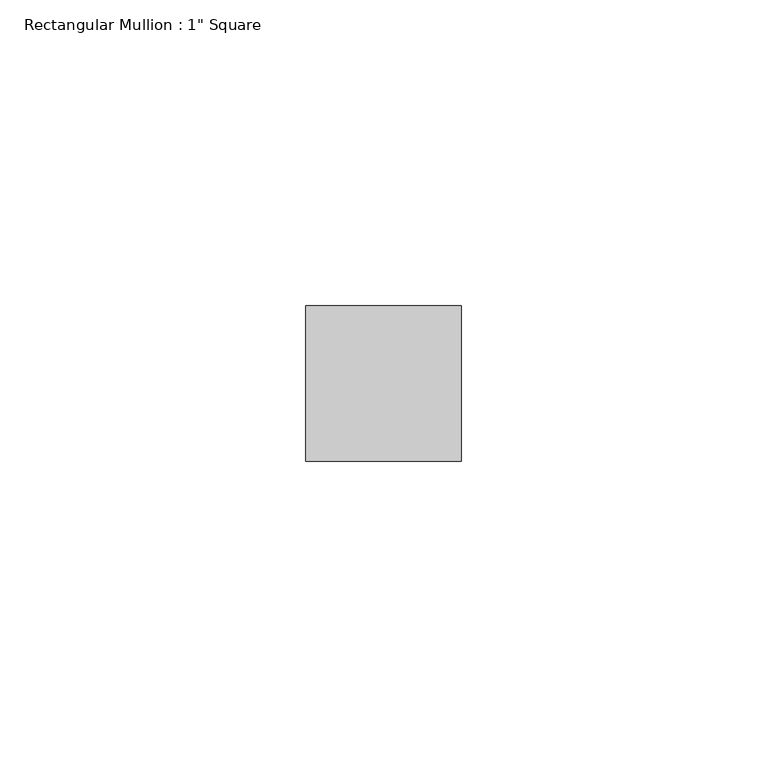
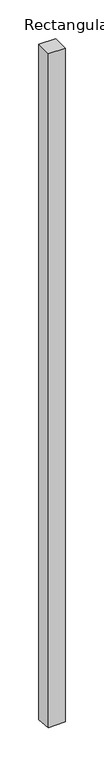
"""IFC4 building model written with IfcOpenShell, lengths in millimetres: member geometry."""

from ifc_helpers import new_model, si_unit, frame, origin, place, context, project, spatial, polyline, outline, extrude, source, transform, mapped, element, save


def member_2d90878b(model_context):
    return source(origin(), model_context, "Body", "SweptSolid", [
        extrude(outline(polyline([(-12.7, 0.0), (12.7, 0.0), (12.7, -1068.2918543), (-12.7, -1065.3081457), (-12.7, 0.0)])), frame((-12.7, 0.0, 0.0), z_axis=(1.0, 0.0, 0.0), x_axis=(0.0, 1.0, 0.0)), (0.0, 0.0, 1.0), 25.4),
    ])


if __name__ == "__main__":
    model = new_model("IFC4")
    model_context = context("Model", 3, world=origin())
    ifc_project = project(units=[si_unit("LENGTHUNIT", "METRE", prefix="MILLI")], contexts=[model_context])
    site = spatial("IfcSite", under=ifc_project)
    building = spatial("IfcBuilding", under=site)
    placement = place(None, origin())
    member_shape = member_2d90878b(model_context)
    element("IfcMember", 1, ObjectType="Rectangular Mullion : 1\" Square", at=placement, inside=building, context=model_context, shape_type="MappedRepresentation", body=[
        mapped(member_shape, transform((0.0, 0.0, 0.0), x_axis=(1.0, 0.0, 0.0), y_axis=(0.0, 1.0, 0.0), z_axis=(0.0, 0.0, 1.0))),
    ])
    save(model, "model.ifc")
